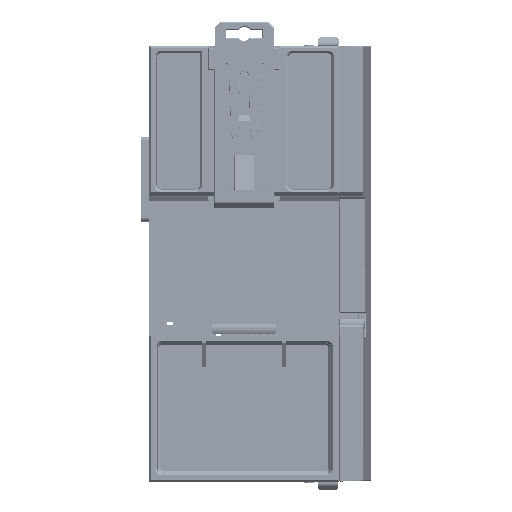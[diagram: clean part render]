
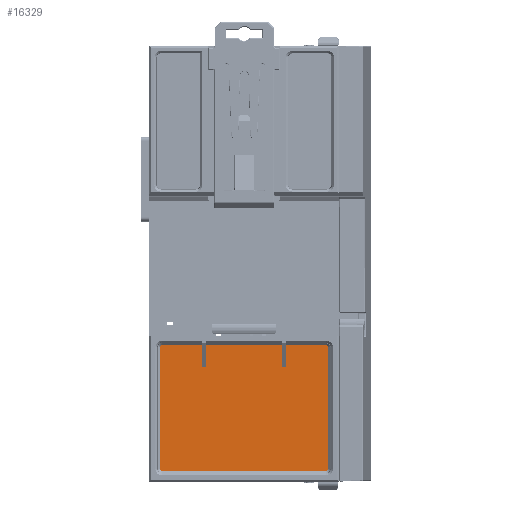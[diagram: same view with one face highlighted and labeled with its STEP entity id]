
A CAD part, front view. The second image highlights one B-rep face of the part: STEP entity #16329.
In plain terms, the highlighted planar face has unit normal (0, -1, 0).
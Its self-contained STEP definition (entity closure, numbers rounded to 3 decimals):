
#298=DIRECTION('',(1.,0.,0.));
#299=VECTOR('',#298,19.);
#300=CARTESIAN_POINT('',(-9.5,4.,-20.65));
#301=LINE('',#300,#299);
#302=DIRECTION('',(0.,0.,-1.));
#303=VECTOR('',#302,5.504);
#304=CARTESIAN_POINT('',(9.5,4.,-20.65));
#305=LINE('',#304,#303);
#306=DIRECTION('',(1.,0.,0.));
#307=VECTOR('',#306,1.);
#308=CARTESIAN_POINT('',(9.5,4.,-26.154));
#309=LINE('',#308,#307);
#310=DIRECTION('',(0.,0.,-1.));
#311=VECTOR('',#310,5.504);
#312=CARTESIAN_POINT('',(10.5,4.,-20.65));
#313=LINE('',#312,#311);
#314=DIRECTION('',(1.,0.,0.));
#315=VECTOR('',#314,10.25);
#316=CARTESIAN_POINT('',(10.5,4.,-20.65));
#317=LINE('',#316,#315);
#318=CARTESIAN_POINT('',(20.75,4.,-21.15));
#319=DIRECTION('',(0.,1.,0.));
#320=DIRECTION('',(0.,0.,1.));
#321=AXIS2_PLACEMENT_3D('',#318,#319,#320);
#323=DIRECTION('',(0.,0.,-1.));
#324=VECTOR('',#323,30.6);
#325=CARTESIAN_POINT('',(21.25,4.,-21.15));
#326=LINE('',#325,#324);
#327=CARTESIAN_POINT('',(20.75,4.,-51.75));
#328=DIRECTION('',(0.,1.,0.));
#329=DIRECTION('',(1.,0.,0.));
#330=AXIS2_PLACEMENT_3D('',#327,#328,#329);
#332=DIRECTION('',(-1.,0.,0.));
#333=VECTOR('',#332,41.5);
#334=CARTESIAN_POINT('',(20.75,4.,-52.25));
#335=LINE('',#334,#333);
#336=CARTESIAN_POINT('',(-20.75,4.,-51.75));
#337=DIRECTION('',(0.,1.,0.));
#338=DIRECTION('',(0.,0.,-1.));
#339=AXIS2_PLACEMENT_3D('',#336,#337,#338);
#341=DIRECTION('',(0.,0.,1.));
#342=VECTOR('',#341,30.6);
#343=CARTESIAN_POINT('',(-21.25,4.,-51.75));
#344=LINE('',#343,#342);
#345=CARTESIAN_POINT('',(-20.75,4.,-21.15));
#346=DIRECTION('',(0.,1.,0.));
#347=DIRECTION('',(-1.,0.,0.));
#348=AXIS2_PLACEMENT_3D('',#345,#346,#347);
#350=DIRECTION('',(1.,0.,0.));
#351=VECTOR('',#350,10.25);
#352=CARTESIAN_POINT('',(-20.75,4.,-20.65));
#353=LINE('',#352,#351);
#354=DIRECTION('',(0.,0.,-1.));
#355=VECTOR('',#354,5.504);
#356=CARTESIAN_POINT('',(-10.5,4.,-20.65));
#357=LINE('',#356,#355);
#358=DIRECTION('',(-1.,0.,0.));
#359=VECTOR('',#358,1.);
#360=CARTESIAN_POINT('',(-9.5,4.,-26.154));
#361=LINE('',#360,#359);
#362=DIRECTION('',(0.,0.,-1.));
#363=VECTOR('',#362,5.504);
#364=CARTESIAN_POINT('',(-9.5,4.,-20.65));
#365=LINE('',#364,#363);
#13057=CARTESIAN_POINT('',(9.5,4.,-26.154));
#13058=CARTESIAN_POINT('',(10.5,4.,-26.154));
#13059=VERTEX_POINT('',#13057);
#13060=VERTEX_POINT('',#13058);
#13061=CARTESIAN_POINT('',(-9.5,4.,-26.154));
#13062=CARTESIAN_POINT('',(-10.5,4.,-26.154));
#13063=VERTEX_POINT('',#13061);
#13064=VERTEX_POINT('',#13062);
#13134=CARTESIAN_POINT('',(9.5,4.,-20.65));
#13136=VERTEX_POINT('',#13134);
#13137=CARTESIAN_POINT('',(-9.5,4.,-20.65));
#13138=VERTEX_POINT('',#13137);
#13142=CARTESIAN_POINT('',(-10.5,4.,-20.65));
#13144=VERTEX_POINT('',#13142);
#13145=CARTESIAN_POINT('',(-20.75,4.,
-20.65));
#13146=VERTEX_POINT('',#13145);
#13149=CARTESIAN_POINT('',(-21.25,4.,-21.15));
#13150=VERTEX_POINT('',#13149);
#13153=CARTESIAN_POINT('',(-21.25,4.,
-51.75));
#13154=VERTEX_POINT('',#13153);
#13157=CARTESIAN_POINT('',(-20.75,4.,-52.25));
#13158=VERTEX_POINT('',#13157);
#13161=CARTESIAN_POINT('',(20.75,4.,
-52.25));
#13162=VERTEX_POINT('',#13161);
#13165=CARTESIAN_POINT('',(21.25,4.,-51.75));
#13166=VERTEX_POINT('',#13165);
#13169=CARTESIAN_POINT('',(21.25,4.,
-21.15));
#13170=VERTEX_POINT('',#13169);
#13173=CARTESIAN_POINT('',(20.75,4.,-20.65));
#13174=VERTEX_POINT('',#13173);
#13177=CARTESIAN_POINT('',(10.5,4.,-20.65));
#13179=VERTEX_POINT('',#13177);
#16297=CARTESIAN_POINT('',(0.,4.,0.));
#16298=DIRECTION('',(0.,-1.,0.));
#16299=DIRECTION('',(-1.,0.,0.));
#16300=AXIS2_PLACEMENT_3D('',#16297,#16298,#16299);
#16301=PLANE('',#16300);
#16303=ORIENTED_EDGE('',*,*,#16302,.T.);
#16304=ORIENTED_EDGE('',*,*,#16029,.T.);
#16305=ORIENTED_EDGE('',*,*,#16051,.T.);
#16306=ORIENTED_EDGE('',*,*,#16076,.F.);
#16308=ORIENTED_EDGE('',*,*,#16307,.T.);
#16310=ORIENTED_EDGE('',*,*,#16309,.T.);
#16312=ORIENTED_EDGE('',*,*,#16311,.T.);
#16314=ORIENTED_EDGE('',*,*,#16313,.T.);
#16316=ORIENTED_EDGE('',*,*,#16315,.T.);
#16318=ORIENTED_EDGE('',*,*,#16317,.T.);
#16320=ORIENTED_EDGE('',*,*,#16319,.T.);
#16321=ORIENTED_EDGE('',*,*,#16280,.T.);
#16323=ORIENTED_EDGE('',*,*,#16322,.T.);
#16324=ORIENTED_EDGE('',*,*,#15940,.T.);
#16325=ORIENTED_EDGE('',*,*,#15961,.F.);
#16326=ORIENTED_EDGE('',*,*,#15987,.F.);
#16327=EDGE_LOOP('',(#16303,#16304,#16305,#16306,#16308,#16310,#16312,#16314,
#16316,#16318,#16320,#16321,#16323,#16324,#16325,#16326));
#16328=FACE_OUTER_BOUND('',#16327,.F.);
#16329=ADVANCED_FACE('',(#16328),#16301,.T.);
#322=CIRCLE('',#321,0.5);
#331=CIRCLE('',#330,0.5);
#340=CIRCLE('',#339,0.5);
#349=CIRCLE('',#348,0.5);
#15940=EDGE_CURVE('',#13144,#13064,#357,.T.);
#15961=EDGE_CURVE('',#13063,#13064,#361,.T.);
#15987=EDGE_CURVE('',#13138,#13063,#365,.T.);
#16029=EDGE_CURVE('',#13136,#13059,#305,.T.);
#16051=EDGE_CURVE('',#13059,#13060,#309,.T.);
#16076=EDGE_CURVE('',#13179,#13060,#313,.T.);
#16280=EDGE_CURVE('',#13150,#13146,#349,.T.);
#16302=EDGE_CURVE('',#13138,#13136,#301,.T.);
#16307=EDGE_CURVE('',#13179,#13174,#317,.T.);
#16309=EDGE_CURVE('',#13174,#13170,#322,.T.);
#16311=EDGE_CURVE('',#13170,#13166,#326,.T.);
#16313=EDGE_CURVE('',#13166,#13162,#331,.T.);
#16315=EDGE_CURVE('',#13162,#13158,#335,.T.);
#16317=EDGE_CURVE('',#13158,#13154,#340,.T.);
#16319=EDGE_CURVE('',#13154,#13150,#344,.T.);
#16322=EDGE_CURVE('',#13146,#13144,#353,.T.);
